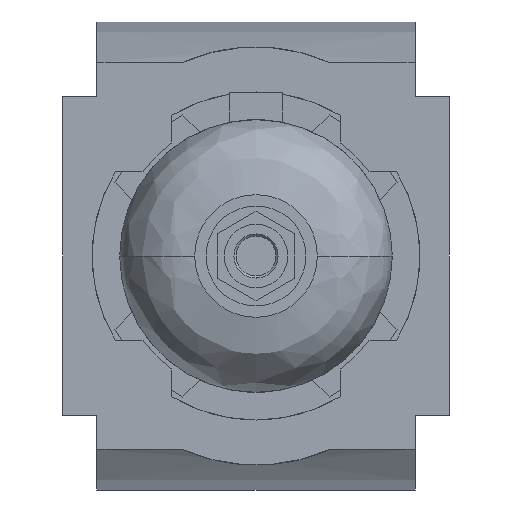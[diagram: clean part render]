
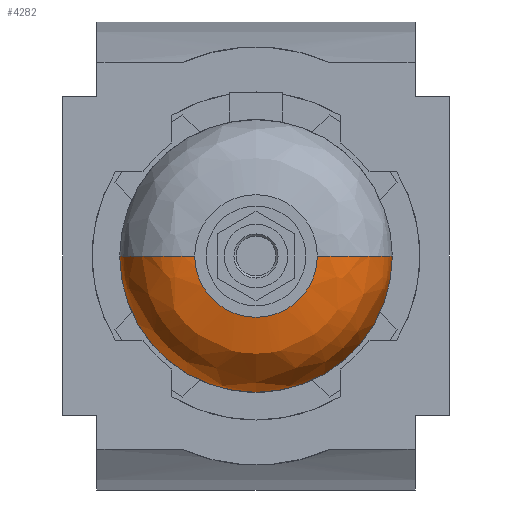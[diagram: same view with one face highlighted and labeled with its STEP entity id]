
A CAD part, front view. The second image highlights one B-rep face of the part: STEP entity #4282.
In plain terms, the highlighted free-form (B-spline) face has degree [3, 3] with [7, 4] control points.
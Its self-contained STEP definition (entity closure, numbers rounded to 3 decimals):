
#2982=CARTESIAN_POINT('',(14.,-133.,0.));
#2983=DIRECTION('',(0.,0.,1.));
#2984=DIRECTION('',(-0.031,-1.,0.));
#2985=AXIS2_PLACEMENT_3D('',#2982,#2983,#2984);
#2987=CARTESIAN_POINT('',(-14.,-133.,0.));
#2988=DIRECTION('',(0.,0.,-1.));
#2989=DIRECTION('',(0.031,-1.,0.));
#2990=AXIS2_PLACEMENT_3D('',#2987,#2988,#2989);
#2992=CARTESIAN_POINT('',(0.,-148.992,0.));
#2993=DIRECTION('',(0.,1.,0.));
#2994=DIRECTION('',(1.,0.,0.));
#2995=AXIS2_PLACEMENT_3D('',#2992,#2993,#2994);
#3215=CARTESIAN_POINT('',(0.,-133.,0.));
#3216=DIRECTION('',(0.,1.,0.));
#3217=DIRECTION('',(1.,0.,0.));
#3218=AXIS2_PLACEMENT_3D('',#3215,#3216,#3217);
#3927=CARTESIAN_POINT('',(13.5,-148.992,0.));
#3929=VERTEX_POINT('',#3927);
#3930=CARTESIAN_POINT('',(30.,-133.,0.));
#3931=VERTEX_POINT('',#3930);
#3935=CARTESIAN_POINT('',(-13.5,-148.992,0.));
#3937=VERTEX_POINT('',#3935);
#3938=CARTESIAN_POINT('',(-30.,-133.,0.));
#3939=VERTEX_POINT('',#3938);
#4244=CARTESIAN_POINT('',(-29.933,-132.487,
1.883));
#4245=CARTESIAN_POINT('',(-30.255,-142.579,
1.904));
#4246=CARTESIAN_POINT('',(-23.019,-149.607,
1.448));
#4247=CARTESIAN_POINT('',(-12.962,-148.968,
0.816));
#4248=CARTESIAN_POINT('',(-31.092,-132.487,
-16.537));
#4249=CARTESIAN_POINT('',(-31.427,-142.579,
-16.716));
#4250=CARTESIAN_POINT('',(-23.911,-149.607,
-12.718));
#4251=CARTESIAN_POINT('',(-13.464,-148.968,
-7.161));
#4252=CARTESIAN_POINT('',(-18.457,-132.487,
-29.992));
#4253=CARTESIAN_POINT('',(-18.656,-142.579,
-30.315));
#4254=CARTESIAN_POINT('',(-14.194,-149.607,
-23.065));
#4255=CARTESIAN_POINT('',(-7.993,-148.968,
-12.988));
#4256=CARTESIAN_POINT('',(0.,-132.487,
-29.992));
#4257=CARTESIAN_POINT('',(0.,-142.579,
-30.315));
#4258=CARTESIAN_POINT('',(0.,-149.607,-23.065));
#4259=CARTESIAN_POINT('',(0.,-148.968,-12.988));
#4260=CARTESIAN_POINT('',(18.457,-132.487,
-29.992));
#4261=CARTESIAN_POINT('',(18.656,-142.579,
-30.315));
#4262=CARTESIAN_POINT('',(14.194,-149.607,
-23.065));
#4263=CARTESIAN_POINT('',(7.993,-148.968,
-12.988));
#4264=CARTESIAN_POINT('',(31.092,-132.487,
-16.537));
#4265=CARTESIAN_POINT('',(31.427,-142.579,
-16.716));
#4266=CARTESIAN_POINT('',(23.911,-149.607,
-12.718));
#4267=CARTESIAN_POINT('',(13.464,-148.968,
-7.161));
#4268=CARTESIAN_POINT('',(29.933,-132.487,1.883));
#4269=CARTESIAN_POINT('',(30.255,-142.579,1.904));
#4270=CARTESIAN_POINT('',(23.019,-149.607,1.448));
#4271=CARTESIAN_POINT('',(12.962,-148.968,
0.816));
#4272=(BOUNDED_SURFACE()B_SPLINE_SURFACE(3,3,((#4244,#4245,#4246,#4247),(#4248,
#4249,#4250,#4251),(#4252,#4253,#4254,#4255),(#4256,#4257,#4258,#4259),(#4260,
#4261,#4262,#4263),(#4264,#4265,#4266,#4267),(#4268,#4269,#4270,#4271)),
.UNSPECIFIED.,.F.,.F.,.F.)B_SPLINE_SURFACE_WITH_KNOTS((4,3,4),(4,4),(0.,1.,
2.),(0.,1.),.UNSPECIFIED.)GEOMETRIC_REPRESENTATION_ITEM()RATIONAL_B_SPLINE_SURFACE(((1.42,1.11,1.11,1.42),(
1.121,0.876,0.876,1.121),(
1.121,0.876,0.876,1.121),(
1.42,1.11,1.11,1.42),(
1.121,0.876,0.876,1.121),(
1.121,0.876,0.876,1.121),(
1.42,1.11,1.11,1.42)))REPRESENTATION_ITEM('')SURFACE());
#4274=ORIENTED_EDGE('',*,*,#4273,.T.);
#4276=ORIENTED_EDGE('',*,*,#4275,.T.);
#4278=ORIENTED_EDGE('',*,*,#4277,.F.);
#4279=ORIENTED_EDGE('',*,*,#4236,.F.);
#4280=EDGE_LOOP('',(#4274,#4276,#4278,#4279));
#4281=FACE_OUTER_BOUND('',#4280,.F.);
#4282=ADVANCED_FACE('',(#4281),#4272,.T.);
#2986=CIRCLE('',#2985,16.);
#2991=CIRCLE('',#2990,16.);
#2996=CIRCLE('',#2995,13.5);
#3219=CIRCLE('',#3218,30.);
#4236=EDGE_CURVE('',#3929,#3937,#2996,.T.);
#4273=EDGE_CURVE('',#3929,#3931,#2986,.T.);
#4275=EDGE_CURVE('',#3931,#3939,#3219,.T.);
#4277=EDGE_CURVE('',#3937,#3939,#2991,.T.);
